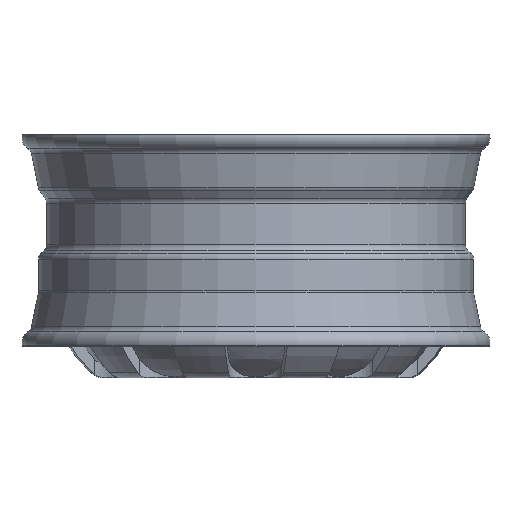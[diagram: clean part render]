
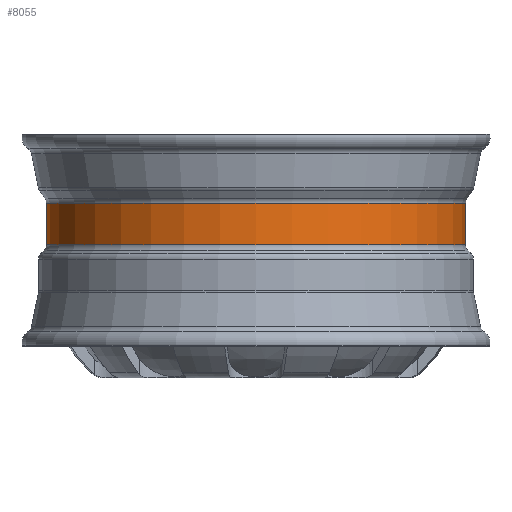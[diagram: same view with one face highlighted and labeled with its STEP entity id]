
A CAD part, front view. The second image highlights one B-rep face of the part: STEP entity #8055.
In plain terms, the highlighted cylindrical face has radius 266 mm (diameter 532 mm), a partial arc.
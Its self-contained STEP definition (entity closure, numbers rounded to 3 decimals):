
#1067 = ORIENTED_EDGE ( 'NONE', *, *, #9287, .F. ) ;
#1100 = AXIS2_PLACEMENT_3D ( 'NONE', #9684, #3485, #6603 ) ;
#1320 = ORIENTED_EDGE ( 'NONE', *, *, #5066, .F. ) ;
#1426 = AXIS2_PLACEMENT_3D ( 'NONE', #4044, #6503, #4093 ) ;
#1442 = VECTOR ( 'NONE', #5620, 1000. ) ;
#2021 = CARTESIAN_POINT ( 'NONE',  ( 0., 0., -5.858 ) ) ;
#2883 = DIRECTION ( 'NONE',  ( -1., 0., 0. ) ) ;
#3272 = LINE ( 'NONE', #8761, #1442 ) ;
#3304 = EDGE_LOOP ( 'NONE', ( #1320, #6696, #10012, #1067 ) ) ;
#3433 = CARTESIAN_POINT ( 'NONE',  ( -266., 0., 115. ) ) ;
#3485 = DIRECTION ( 'NONE',  ( 0., 0., -1. ) ) ;
#3995 = CYLINDRICAL_SURFACE ( 'NONE', #1426, 266. ) ;
#4044 = CARTESIAN_POINT ( 'NONE',  ( 0., 0., 115. ) ) ;
#4093 = DIRECTION ( 'NONE',  ( -1., 0., 0. ) ) ;
#4134 = CARTESIAN_POINT ( 'NONE',  ( 266., 0., -5.858 ) ) ;
#4622 = AXIS2_PLACEMENT_3D ( 'NONE', #2021, #5124, #2883 ) ;
#4672 = EDGE_CURVE ( 'NONE', #5497, #8968, #4854, .T. ) ;
#4723 = EDGE_CURVE ( 'NONE', #8968, #5911, #4966, .T. ) ;
#4773 = CARTESIAN_POINT ( 'NONE',  ( -266., 0., -5.858 ) ) ;
#4854 = CIRCLE ( 'NONE', #1100, 266. ) ;
#4966 = LINE ( 'NONE', #3433, #8733 ) ;
#5066 = EDGE_CURVE ( 'NONE', #5497, #9480, #3272, .T. ) ;
#5124 = DIRECTION ( 'NONE',  ( 0., 0., -1. ) ) ;
#5497 = VERTEX_POINT ( 'NONE', #7189 ) ;
#5620 = DIRECTION ( 'NONE',  ( 0., 0., -1. ) ) ;
#5911 = VERTEX_POINT ( 'NONE', #4773 ) ;
#6503 = DIRECTION ( 'NONE',  ( 0., 0., -1. ) ) ;
#6603 = DIRECTION ( 'NONE',  ( -1., 0., 0. ) ) ;
#6696 = ORIENTED_EDGE ( 'NONE', *, *, #4672, .T. ) ;
#7189 = CARTESIAN_POINT ( 'NONE',  ( 266., 0., 46.972 ) ) ;
#7712 = CIRCLE ( 'NONE', #4622, 266. ) ;
#7872 = FACE_OUTER_BOUND ( 'NONE', #3304, .T. ) ;
#8012 = DIRECTION ( 'NONE',  ( 0., 0., -1. ) ) ;
#8055 = ADVANCED_FACE ( 'NONE', ( #7872 ), #3995, .T. ) ;
#8195 = CARTESIAN_POINT ( 'NONE',  ( -266., 0., 46.972 ) ) ;
#8733 = VECTOR ( 'NONE', #8012, 1000. ) ;
#8761 = CARTESIAN_POINT ( 'NONE',  ( 266., 0., 115. ) ) ;
#8968 = VERTEX_POINT ( 'NONE', #8195 ) ;
#9287 = EDGE_CURVE ( 'NONE', #9480, #5911, #7712, .T. ) ;
#9480 = VERTEX_POINT ( 'NONE', #4134 ) ;
#9684 = CARTESIAN_POINT ( 'NONE',  ( 0., 0., 46.972 ) ) ;
#10012 = ORIENTED_EDGE ( 'NONE', *, *, #4723, .T. ) ;
